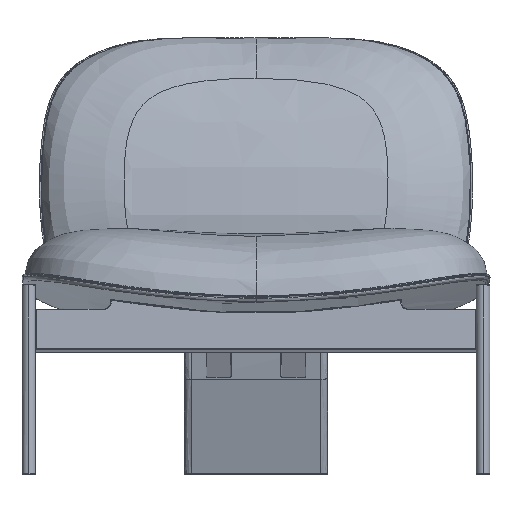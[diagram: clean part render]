
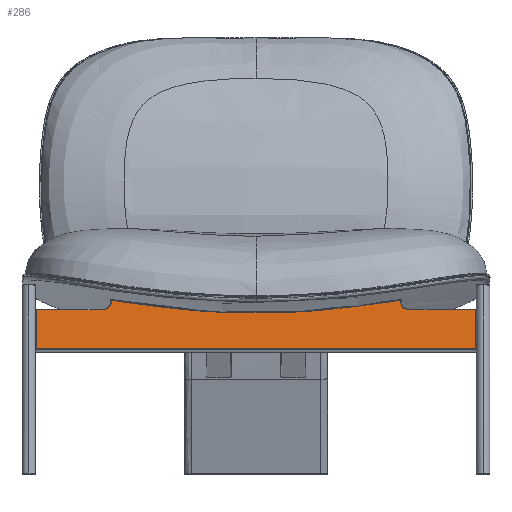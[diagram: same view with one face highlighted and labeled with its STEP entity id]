
A CAD part, front view. The second image highlights one B-rep face of the part: STEP entity #286.
In plain terms, the highlighted planar face has unit normal (0, -0.996, 0.087).
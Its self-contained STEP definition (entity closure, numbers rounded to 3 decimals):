
#286=ADVANCED_FACE('',(#585),#3780,.T.);
#585=FACE_OUTER_BOUND('',#890,.T.);
#890=EDGE_LOOP('',(#1395,#1396,#1397,#1398,#1399,#1400,#1401,#1402,#1403,
#1404));
#1395=ORIENTED_EDGE('',*,*,#2492,.T.);
#1396=ORIENTED_EDGE('',*,*,#2416,.T.);
#1397=ORIENTED_EDGE('',*,*,#2417,.T.);
#1398=ORIENTED_EDGE('',*,*,#2468,.T.);
#1399=ORIENTED_EDGE('',*,*,#2418,.T.);
#1400=ORIENTED_EDGE('',*,*,#2419,.T.);
#1401=ORIENTED_EDGE('',*,*,#2420,.T.);
#1402=ORIENTED_EDGE('',*,*,#2421,.T.);
#1403=ORIENTED_EDGE('',*,*,#2422,.T.);
#1404=ORIENTED_EDGE('',*,*,#2471,.T.);
#2416=EDGE_CURVE('',#3532,#3533,#3056,.T.);
#2417=EDGE_CURVE('',#3533,#3534,#3057,.T.);
#2418=EDGE_CURVE('',#3535,#3536,#2899,.T.);
#2419=EDGE_CURVE('',#3536,#3537,#2900,.T.);
#2420=EDGE_CURVE('',#3537,#3538,#2901,.T.);
#2421=EDGE_CURVE('',#3538,#3539,#2902,.T.);
#2422=EDGE_CURVE('',#3539,#3540,#2903,.T.);
#2468=EDGE_CURVE('',#3534,#3535,#3090,.T.);
#2471=EDGE_CURVE('',#3540,#3531,#3093,.T.);
#2492=EDGE_CURVE('',#3531,#3532,#3112,.T.);
#2899=B_SPLINE_CURVE_WITH_KNOTS('',1,(#12048,#12049),.UNSPECIFIED.,.F.,
 .F.,(2,2),(0.,107.),.UNSPECIFIED.);
#2900=B_SPLINE_CURVE_WITH_KNOTS('',1,(#12050,#12051),.UNSPECIFIED.,.F.,
 .F.,(2,2),(0.,63.),.UNSPECIFIED.);
#2901=B_SPLINE_CURVE_WITH_KNOTS('',1,(#12052,#12053),.UNSPECIFIED.,.F.,
 .F.,(2,2),(0.,704.),.UNSPECIFIED.);
#2902=B_SPLINE_CURVE_WITH_KNOTS('',1,(#12054,#12055),.UNSPECIFIED.,.F.,
 .F.,(2,2),(0.,63.),.UNSPECIFIED.);
#2903=B_SPLINE_CURVE_WITH_KNOTS('',1,(#12056,#12057),.UNSPECIFIED.,.F.,
 .F.,(2,2),(0.,107.),.UNSPECIFIED.);
#3056=(
BOUNDED_CURVE()
B_SPLINE_CURVE(3,(#12015,#12016,#12017,#12018,#12019,#12020,#12021,#12022,
#12023,#12024,#12025,#12026,#12027,#12028,#12029,#12030,#12031,#12032,#12033,
#12034,#12035,#12036,#12037,#12038,#12039,#12040,#12041,#12042,#12043,#12044,
#12045),.UNSPECIFIED.,.F.,.F.)
B_SPLINE_CURVE_WITH_KNOTS((4,3,3,3,3,3,3,3,3,3,4),(0.,67.069,
137.043,171.495,233.219,267.275,294.939,
329.39,399.367,444.906,466.488),
 .UNSPECIFIED.)
CURVE()
GEOMETRIC_REPRESENTATION_ITEM()
RATIONAL_B_SPLINE_CURVE((1.,1.,1.,1.,1.,1.,1.,
1.,1.,1.,1.,1.,1.,1.,1.,1.,1.,1.,1.,
1.,1.,1.,1.,1.,1.,1.,1.,1.,
1.,1.,1.))
REPRESENTATION_ITEM('')
);
#3057=(
BOUNDED_CURVE()
B_SPLINE_CURVE(1,(#12046,#12047),.UNSPECIFIED.,.F.,.F.)
B_SPLINE_CURVE_WITH_KNOTS((2,2),(0.,2.485),.UNSPECIFIED.)
CURVE()
GEOMETRIC_REPRESENTATION_ITEM()
RATIONAL_B_SPLINE_CURVE((1.,1.))
REPRESENTATION_ITEM('')
);
#3090=(
BOUNDED_CURVE()
B_SPLINE_CURVE(2,(#12203,#12204,#12205),.UNSPECIFIED.,.F.,.F.)
B_SPLINE_CURVE_WITH_KNOTS((3,3),(0.,20.42),.UNSPECIFIED.)
CURVE()
GEOMETRIC_REPRESENTATION_ITEM()
RATIONAL_B_SPLINE_CURVE((1.,0.707,1.))
REPRESENTATION_ITEM('')
);
#3093=(
BOUNDED_CURVE()
B_SPLINE_CURVE(2,(#12212,#12213,#12214),.UNSPECIFIED.,.F.,.F.)
B_SPLINE_CURVE_WITH_KNOTS((3,3),(-20.42,0.),.UNSPECIFIED.)
CURVE()
GEOMETRIC_REPRESENTATION_ITEM()
RATIONAL_B_SPLINE_CURVE((1.,0.707,1.))
REPRESENTATION_ITEM('')
);
#3112=(
BOUNDED_CURVE()
B_SPLINE_CURVE(1,(#12330,#12331),.UNSPECIFIED.,.F.,.F.)
B_SPLINE_CURVE_WITH_KNOTS((2,2),(-2.475,0.),.UNSPECIFIED.)
CURVE()
GEOMETRIC_REPRESENTATION_ITEM()
RATIONAL_B_SPLINE_CURVE((1.,1.))
REPRESENTATION_ITEM('')
);
#3531=VERTEX_POINT('',#11937);
#3532=VERTEX_POINT('',#11938);
#3533=VERTEX_POINT('',#11939);
#3534=VERTEX_POINT('',#11940);
#3535=VERTEX_POINT('',#11941);
#3536=VERTEX_POINT('',#11942);
#3537=VERTEX_POINT('',#11943);
#3538=VERTEX_POINT('',#11944);
#3539=VERTEX_POINT('',#11945);
#3540=VERTEX_POINT('',#11946);
#3780=PLANE('',#4104);
#4104=AXIS2_PLACEMENT_3D('',#11208,#4228,$);
#4228=DIRECTION('',(0.,-0.996,0.087));
#11208=CARTESIAN_POINT('',(51018.351,-2358.335,286.852));
#11937=CARTESIAN_POINT('',(51672.763,-2359.237,276.545));
#11938=CARTESIAN_POINT('',(51672.763,-2359.021,279.011));
#11939=CARTESIAN_POINT('',(51208.763,-2359.02,279.02));
#11940=CARTESIAN_POINT('',(51208.763,-2359.237,276.545));
#11941=CARTESIAN_POINT('',(51195.763,-2360.37,263.595));
#11942=CARTESIAN_POINT('',(51088.763,-2360.37,263.595));
#11943=CARTESIAN_POINT('',(51088.763,-2365.861,200.834));
#11944=CARTESIAN_POINT('',(51792.763,-2365.861,200.834));
#11945=CARTESIAN_POINT('',(51792.763,-2360.37,263.595));
#11946=CARTESIAN_POINT('',(51685.763,-2360.37,263.595));
#12015=CARTESIAN_POINT('',(51672.763,-2359.021,279.011));
#12016=CARTESIAN_POINT('',(51650.728,-2359.35,275.255));
#12017=CARTESIAN_POINT('',(51628.616,-2359.638,271.957));
#12018=CARTESIAN_POINT('',(51606.442,-2359.886,269.128));
#12019=CARTESIAN_POINT('',(51583.308,-2360.144,266.176));
#12020=CARTESIAN_POINT('',(51560.108,-2360.357,263.735));
#12021=CARTESIAN_POINT('',(51536.858,-2360.517,261.907));
#12022=CARTESIAN_POINT('',(51525.41,-2360.596,261.007));
#12023=CARTESIAN_POINT('',(51513.95,-2360.662,260.255));
#12024=CARTESIAN_POINT('',(51502.482,-2360.713,259.667));
#12025=CARTESIAN_POINT('',(51481.936,-2360.806,258.613));
#12026=CARTESIAN_POINT('',(51461.364,-2360.852,258.084));
#12027=CARTESIAN_POINT('',(51440.791,-2360.852,258.084));
#12028=CARTESIAN_POINT('',(51429.44,-2360.852,258.083));
#12029=CARTESIAN_POINT('',(51418.088,-2360.838,258.244));
#12030=CARTESIAN_POINT('',(51406.741,-2360.81,258.566));
#12031=CARTESIAN_POINT('',(51397.524,-2360.787,258.827));
#12032=CARTESIAN_POINT('',(51388.31,-2360.755,259.195));
#12033=CARTESIAN_POINT('',(51379.101,-2360.713,259.667));
#12034=CARTESIAN_POINT('',(51367.633,-2360.662,260.256));
#12035=CARTESIAN_POINT('',(51356.173,-2360.596,261.007));
#12036=CARTESIAN_POINT('',(51344.725,-2360.517,261.907));
#12037=CARTESIAN_POINT('',(51321.474,-2360.358,263.735));
#12038=CARTESIAN_POINT('',(51298.273,-2360.144,266.177));
#12039=CARTESIAN_POINT('',(51275.138,-2359.886,269.128));
#12040=CARTESIAN_POINT('',(51260.082,-2359.718,271.049));
#12041=CARTESIAN_POINT('',(51245.054,-2359.531,273.186));
#12042=CARTESIAN_POINT('',(51230.059,-2359.325,275.536));
#12043=CARTESIAN_POINT('',(51222.953,-2359.228,276.65));
#12044=CARTESIAN_POINT('',(51215.854,-2359.126,277.812));
#12045=CARTESIAN_POINT('',(51208.763,-2359.02,279.02));
#12046=CARTESIAN_POINT('',(51208.763,-2359.02,279.02));
#12047=CARTESIAN_POINT('',(51208.763,-2359.237,276.545));
#12048=CARTESIAN_POINT('',(51195.763,-2360.37,263.595));
#12049=CARTESIAN_POINT('',(51088.763,-2360.37,263.595));
#12050=CARTESIAN_POINT('',(51088.763,-2360.37,263.595));
#12051=CARTESIAN_POINT('',(51088.763,-2365.861,200.834));
#12052=CARTESIAN_POINT('',(51088.763,-2365.861,200.834));
#12053=CARTESIAN_POINT('',(51792.763,-2365.861,200.834));
#12054=CARTESIAN_POINT('',(51792.763,-2365.861,200.834));
#12055=CARTESIAN_POINT('',(51792.763,-2360.37,263.595));
#12056=CARTESIAN_POINT('',(51792.763,-2360.37,263.595));
#12057=CARTESIAN_POINT('',(51685.763,-2360.37,263.595));
#12203=CARTESIAN_POINT('',(51208.763,-2359.237,276.545));
#12204=CARTESIAN_POINT('',(51208.763,-2360.37,263.595));
#12205=CARTESIAN_POINT('',(51195.763,-2360.37,263.595));
#12212=CARTESIAN_POINT('',(51685.763,-2360.37,263.595));
#12213=CARTESIAN_POINT('',(51672.763,-2360.37,263.595));
#12214=CARTESIAN_POINT('',(51672.763,-2359.237,276.545));
#12330=CARTESIAN_POINT('',(51672.763,-2359.237,276.545));
#12331=CARTESIAN_POINT('',(51672.763,-2359.021,279.011));
